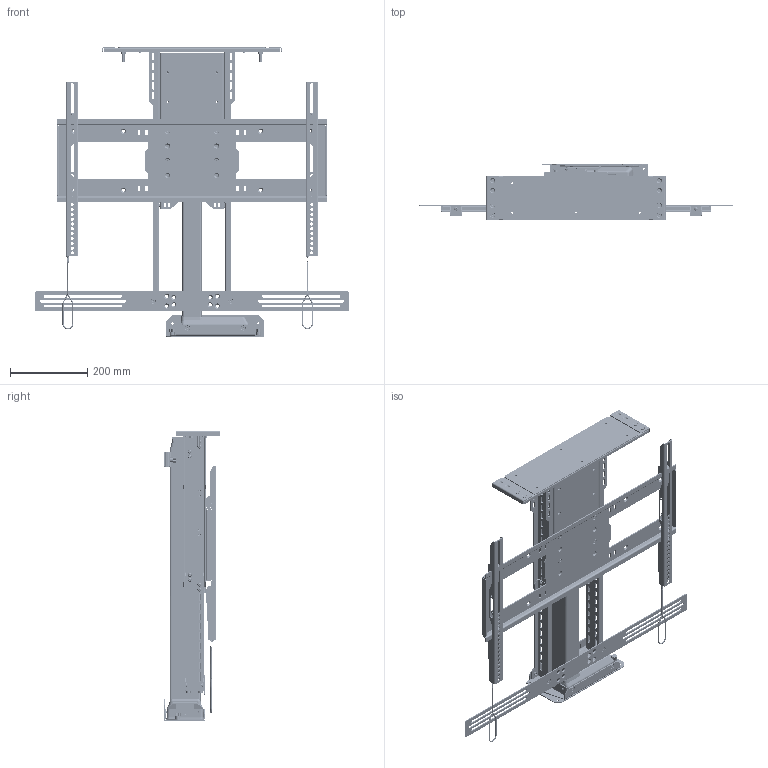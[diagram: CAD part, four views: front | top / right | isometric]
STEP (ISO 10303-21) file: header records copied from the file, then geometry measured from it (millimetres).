
FILE_DESCRIPTION(/* description */ ('STEP AP242','CAx-IF Rec.Pracs.---Representation and Presentation of Product Manufacturing Information (PMI)---4.0---2014-10-13','CAx-IF Rec.Pracs.---3D Tessellated Geometry---0.4---2014-09-14','2;1'),/* implementation_level */ '2;1');
FILE_NAME(/* name */ '63effbd6e841dc2814848026',/* time_stamp */ '2023-02-17T22:12:43+00:00',/* author */ (''),/* organization */ (''),/* preprocessor_version */ 'ST-DEVELOPER v18.102',/* originating_system */ ' ',/* authorisation */ ' ');
FILE_SCHEMA (('AP242_MANAGED_MODEL_BASED_3D_ENGINEERING_MIM_LF { 1 0 10303 442 1 1 4 }'));
Products named in the file (64): L-65/s; Hex socket countersunk head screw M6x1 x 16; Hex socket countersunk head screw M6x1 x 12; Socket button head screw M6x1 x 12; WDS8151-215; ULS-NX-011 - ULS ACCESSORY MOUNTING BRACKET SPACER <2>; ULS-NX-011 - UL ACCESSORY MOUNTING BRACKET SPACER; PRODUCT_NAME_1; ULS Accessories <1>; ULS-NX-010 - ULS ACCESSORY MOUNTING BRACKET W PEMS <2>; PEM CLS-M6-2  ; ULS-NX-010 - UL ACCESSORY MOUNTING BRACKET; L-85 SOUND BAR MOUNT; ULS-NX-010 - ULS ACCESSORY MOUNTING BRACKET W PEMS <1>; ULS-NX-108 - ULS SCREEN SUPPORT WELDMENT <1>; PEM CLS-M6-1  ; F-M6-3 M6 PEM NUT; ULS-NX-008 - UL SCREEN SUPPORT SHELL; ULS-NX-009 - ULS SCREEN SUPPORT TOP PLATE <1>; ULS-NX-009 - UL SCREEN SUPPORT TOP PLATE; Lid Plate Assembly W/ Lid Supports <1>; ULS-NX-012 - ULS LID SUPPORT W PEMS <1>; UL LID SUPPORT (ULS-NX-012); ULS-NX-012 - ULS LID SUPPORT W PEMS <2>; LID-FL-ULS - ULS Lid Plate Assembly <1>; ULS-NX-006 - Lid Adapter W/ Pin <1>; OLD_ULS-NX-006 - UL LID ADAPTER <1>; ULS-NX-006 - UL LID ADAPTER; FHS-273-24 PEM; FL Sub Asm <1>; 97069A106_Zinc-Plated Steel Spring Lock Washer; Plain washer large grade A M6; Hex socket countersunk head screw M6x1 x 8; ULS-NX-007 - UL LID PLATE EXTENDER; Hex nut grade C M6x1; NEX-LM-032 LID PIN GUIDE; ULS-NX-005 - UL LID PLATE W PEMS <1>; ULS-NX-005 - UL LID PLATE; PEM FHS-M6-15  ; SBP & VMB <1>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
Assembly tree (196 placements, depth 6):
  L-65/s
    Hex socket countersunk head screw M6x1 x 16  x4
    Hex socket countersunk head screw M6x1 x 12  x12
    Socket button head screw M6x1 x 12  x16
    WDS8151-215  x4
    ULS-NX-011 - ULS ACCESSORY MOUNTING BRACKET SPACER <2>
      ULS-NX-011 - UL ACCESSORY MOUNTING BRACKET SPACER
      PRODUCT_NAME_1  x2
    ULS Accessories <1>
      Hex socket countersunk head screw M6x1 x 12  x2
      ULS-NX-010 - ULS ACCESSORY MOUNTING BRACKET W PEMS <2>
        PEM CLS-M6-2    x4
        ULS-NX-010 - UL ACCESSORY MOUNTING BRACKET
      L-85 SOUND BAR MOUNT
      ULS-NX-010 - ULS ACCESSORY MOUNTING BRACKET W PEMS <1>
        PEM CLS-M6-2    x4
        ULS-NX-010 - UL ACCESSORY MOUNTING BRACKET
    ULS-NX-108 - ULS SCREEN SUPPORT WELDMENT <1>
      PEM CLS-M6-1    x32
      F-M6-3 M6 PEM NUT
      ULS-NX-008 - UL SCREEN SUPPORT SHELL
      ULS-NX-009 - ULS SCREEN SUPPORT TOP PLATE <1>
        PEM CLS-M6-1    x4
        ULS-NX-009 - UL SCREEN SUPPORT TOP PLATE
    Lid Plate Assembly W/ Lid Supports <1>
      ULS-NX-012 - ULS LID SUPPORT W PEMS <1>
        PEM CLS-M6-2    x2
        UL LID SUPPORT (ULS-NX-012)
      ULS-NX-012 - ULS LID SUPPORT W PEMS <2>
        PEM CLS-M6-2    x2
        UL LID SUPPORT (ULS-NX-012)
      LID-FL-ULS - ULS Lid Plate Assembly <1>
        ULS-NX-006 - Lid Adapter W/ Pin <1>
          OLD_ULS-NX-006 - UL LID ADAPTER <1>
            ULS-NX-006 - UL LID ADAPTER
            FHS-273-24 PEM  x2
        FL Sub Asm <1>
          97069A106_Zinc-Plated Steel Spring Lock Washer  x4
          Plain washer large grade A M6  x4
          Hex socket countersunk head screw M6x1 x 8  x4
          ULS-NX-007 - UL LID PLATE EXTENDER  x2
          Hex nut grade C M6x1  x4
          NEX-LM-032 LID PIN GUIDE  x2
          ULS-NX-005 - UL LID PLATE W PEMS <1>
            PEM CLS-M6-2    x8
            ULS-NX-005 - UL LID PLATE
            PEM FHS-M6-15    x4
    SBP & VMB <1>
      PZ Pan head screw M5x0.80 x 25  x2
      ULS-NX-017 - UL SCREEN BACK PLATE
      Lanyard  x2
      ULS-NX-118 - UL VMB WELDMENT <2>
        Socket button head cap screw #6-32 x 0.188  x2
        VMB Washer  x4
        ULS-NX-019 - UL LEVEL ADJUSTMENT PLATE
        PEM BSO-632-10  ZI  x2
        90107A012  x2
        ULS-NX-018 - UL VERICAL MOUNTING BAR
        ULS-NX-020 - UL SCREEN LOCK
      ULS-NX-118 - UL VMB WELDMENT <1>
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Bounding box: 812.8 x 146.38 x 750.68 mm (x, y, z)
Volume: 8969984 mm3; surface area: 2018580.6 mm2
Topology: 175 solids, 175 shells, 12193 faces, 32577 edges, 21135 vertices
Faces by surface type: plane 8521, cylinder 2080, cone 773, bspline 535, torus 242, sphere 42
Full cylindrical faces by diameter (mm): 2.032 x14, 2.642 x4, 3.175 x10, 3.505 x4, 4.6 x2, 4.917 x61, 5 x16, 5.026 x4, 5.08 x4, 5.277 x8, 5.3 x6, 5.385 x12, 5.41 x8, 5.486 x4, 5.499 x2, 5.6 x4, 5.613 x6, 5.944 x4, 5.994 x2, 6 x72, 6.095 x2, 6.35 x16, 6.4 x4, 6.528 x4, 6.6 x2, 6.604 x4, 6.655 x4, 6.934 x2, 6.976 x1, 7.112 x2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
Entity records: 106027 total; most frequent: CARTESIAN_POINT 20427, DIRECTION 16828, ORIENTED_EDGE 16256, EDGE_CURVE 8128, AXIS2_PLACEMENT_3D 5788, VERTEX_POINT 5412, LINE 5252, VECTOR 5252
